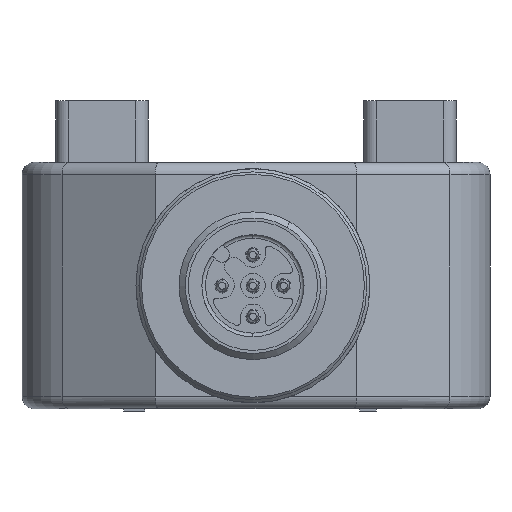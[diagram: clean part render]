
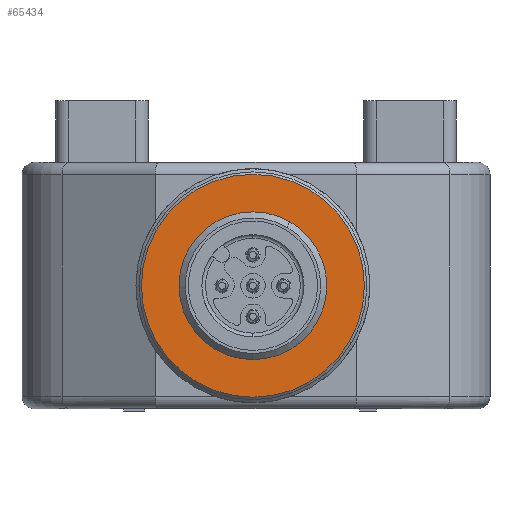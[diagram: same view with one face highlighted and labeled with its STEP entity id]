
A CAD part, front view. The second image highlights one B-rep face of the part: STEP entity #65434.
In plain terms, the highlighted planar face has unit normal (0, -1, 0).
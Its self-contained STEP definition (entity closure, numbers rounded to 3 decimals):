
#2845 = EDGE_CURVE ( 'NONE', #5603, #43860, #62061, .T. ) ;
#4366 = DIRECTION ( 'NONE',  ( 0.5, 0., 0.866 ) ) ;
#4909 = CIRCLE ( 'NONE', #25582, 9.05 ) ;
#5189 = DIRECTION ( 'NONE',  ( 0., -1., 0. ) ) ;
#5603 = VERTEX_POINT ( 'NONE', #33863 ) ;
#6129 = CARTESIAN_POINT ( 'NONE',  ( 23.088, -26.9, -10.025 ) ) ;
#9878 = VERTEX_POINT ( 'NONE', #6129 ) ;
#13403 = DIRECTION ( 'NONE',  ( 0.5, 0., 0.866 ) ) ;
#13486 = EDGE_LOOP ( 'NONE', ( #23674, #21950 ) ) ;
#16414 = AXIS2_PLACEMENT_3D ( 'NONE', #68011, #36174, #4366 ) ;
#16584 = DIRECTION ( 'NONE',  ( 0., -1., 0. ) ) ;
#18507 = PLANE ( 'NONE',  #28329 ) ;
#20349 = EDGE_CURVE ( 'NONE', #9878, #52063, #4909, .T. ) ;
#21950 = ORIENTED_EDGE ( 'NONE', *, *, #20349, .T. ) ;
#21982 = CIRCLE ( 'NONE', #16414, 9.05 ) ;
#23674 = ORIENTED_EDGE ( 'NONE', *, *, #39274, .T. ) ;
#25582 = AXIS2_PLACEMENT_3D ( 'NONE', #62585, #30754, #67950 ) ;
#26956 = AXIS2_PLACEMENT_3D ( 'NONE', #48362, #16584, #53713 ) ;
#28329 = AXIS2_PLACEMENT_3D ( 'NONE', #29148, #45200, #13403 ) ;
#29148 = CARTESIAN_POINT ( 'NONE',  ( 15.25, -26.9, -5.5 ) ) ;
#30754 = DIRECTION ( 'NONE',  ( 0., -1., 0. ) ) ;
#33863 = CARTESIAN_POINT ( 'NONE',  ( 12.25, -26.9, -10.696 ) ) ;
#35154 = EDGE_LOOP ( 'NONE', ( #58739, #55882 ) ) ;
#35413 = CARTESIAN_POINT ( 'NONE',  ( 7.412, -26.9, -0.975 ) ) ;
#35624 = CIRCLE ( 'NONE', #53597, 6. ) ;
#36174 = DIRECTION ( 'NONE',  ( 0., -1., 0. ) ) ;
#37007 = CARTESIAN_POINT ( 'NONE',  ( 15.25, -26.9, -5.5 ) ) ;
#39274 = EDGE_CURVE ( 'NONE', #52063, #9878, #21982, .T. ) ;
#42373 = DIRECTION ( 'NONE',  ( 0.5, 0., 0.866 ) ) ;
#43860 = VERTEX_POINT ( 'NONE', #45269 ) ;
#45200 = DIRECTION ( 'NONE',  ( 0., -1., 0. ) ) ;
#45269 = CARTESIAN_POINT ( 'NONE',  ( 18.25, -26.9, -0.304 ) ) ;
#48362 = CARTESIAN_POINT ( 'NONE',  ( 15.25, -26.9, -5.5 ) ) ;
#49574 = FACE_BOUND ( 'NONE', #35154, .T. ) ;
#52063 = VERTEX_POINT ( 'NONE', #35413 ) ;
#53597 = AXIS2_PLACEMENT_3D ( 'NONE', #37007, #5189, #42373 ) ;
#53713 = DIRECTION ( 'NONE',  ( 0.5, 0., 0.866 ) ) ;
#55882 = ORIENTED_EDGE ( 'NONE', *, *, #2845, .F. ) ;
#58739 = ORIENTED_EDGE ( 'NONE', *, *, #62837, .F. ) ;
#62061 = CIRCLE ( 'NONE', #26956, 6. ) ;
#62585 = CARTESIAN_POINT ( 'NONE',  ( 15.25, -26.9, -5.5 ) ) ;
#62837 = EDGE_CURVE ( 'NONE', #43860, #5603, #35624, .T. ) ;
#65434 = ADVANCED_FACE ( 'NONE', ( #67036, #49574 ), #18507, .T. ) ;
#67036 = FACE_OUTER_BOUND ( 'NONE', #13486, .T. ) ;
#67950 = DIRECTION ( 'NONE',  ( 0.5, 0., 0.866 ) ) ;
#68011 = CARTESIAN_POINT ( 'NONE',  ( 15.25, -26.9, -5.5 ) ) ;
